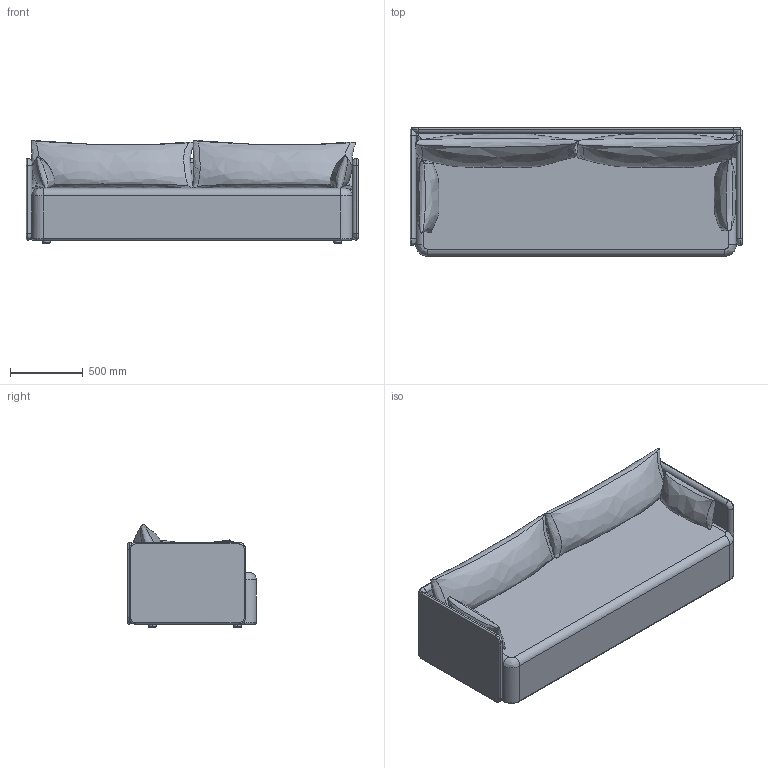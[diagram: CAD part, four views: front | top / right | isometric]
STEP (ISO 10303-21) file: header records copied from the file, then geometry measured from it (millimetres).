
FILE_DESCRIPTION(/* description */ (''),/* implementation_level */ '2;1');
FILE_NAME(/* name */ 'Offset Sofa, 3-Seater',/* time_stamp */ '2024-11-13T10:53:21+01:00',/* author */ (''),/* organization */ (''),/* preprocessor_version */ 'ST-DEVELOPER v16.5',/* originating_system */ 'Rhino 7.31',/* authorisation */ '');
FILE_SCHEMA (('AUTOMOTIVE_DESIGN'));
Length unit declared in the file: millimetre
Products named in the file (1): Document
Bounding box: 2280 x 884 x 710.2 mm (x, y, z)
Volume: 847214214.6 mm3; surface area: 12644791.5 mm2
Topology: 20 solids, 20 shells, 580 faces, 1506 edges, 972 vertices
Faces by surface type: cylinder 400, bspline 104, plane 76
Entity records: 47211 total; most frequent: CARTESIAN_POINT 37656, ORIENTED_EDGE 2992, EDGE_CURVE 1496, VERTEX_POINT 972, EDGE_LOOP 612, B_SPLINE_CURVE_WITH_KNOTS 604, ADVANCED_FACE 580, FACE_OUTER_BOUND 580
